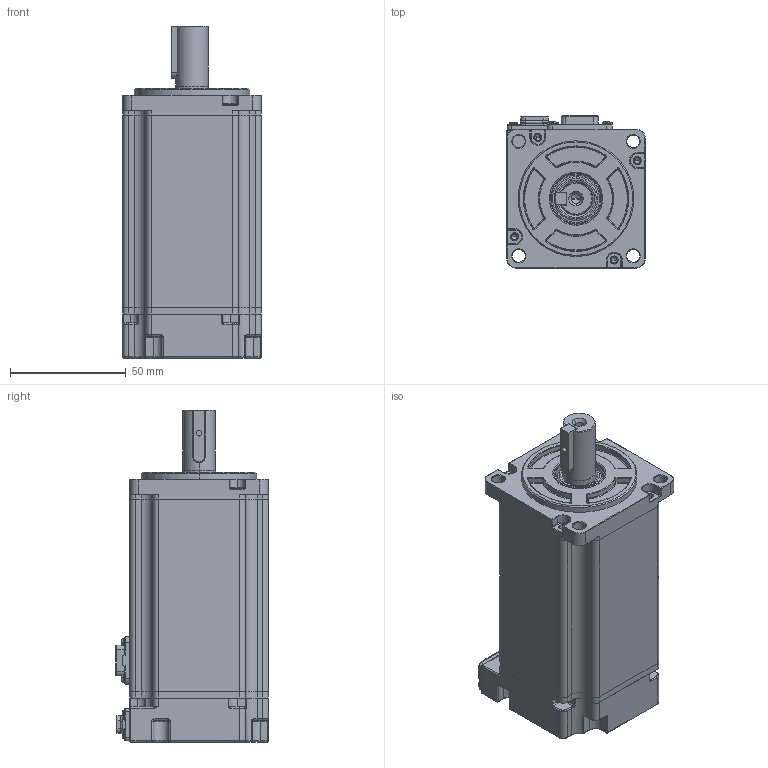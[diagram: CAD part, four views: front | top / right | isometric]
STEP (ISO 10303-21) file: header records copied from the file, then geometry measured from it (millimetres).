
FILE_DESCRIPTION (( 'STEP AP214' ), '1' );
FILE_NAME ('V7E-L06A-R6030-D1.STEP', '2021-08-09T02:48:24', ( '' ), ( '' ), 'SwSTEP 2.0', 'SolidWorks 2014', '' );
FILE_SCHEMA (( 'AUTOMOTIVE_DESIGN' ));
Length unit declared in the file: millimetre
Products named in the file (10): 綴傷裔E06B102HA1; SC40陔晤鎢ん瑤脣釱sc-mc7p-a6-zhichuxianchazuo; 晤鎢ん欶E06B106BA1; 蚐猾 D00B999YF2-TC 15-22-5; 粣芛; V7E-L06A-R6030-D1; 普通型 平键   C 5x5x22.5 带M3起键螺钉孔; 儂褲E06B101AA1-45; ヶ傷裔E06B102QA1; 60-80蚳蚚雄薯脣釱-sc-mc6p-ac-goubanchazuo
Assembly tree (9 placements, depth 2):
  V7E-L06A-R6030-D1
    儂褲E06B101AA1-45
    晤鎢ん欶E06B106BA1
    綴傷裔E06B102HA1
    ヶ傷裔E06B102QA1
    蚐猾 D00B999YF2-TC 15-22-5
    粣芛
    SC40陔晤鎢ん瑤脣釱sc-mc7p-a6-zhichuxianchazuo
    60-80蚳蚚雄薯脣釱-sc-mc6p-ac-goubanchazuo
    普通型 平键   C 5x5x22.5 带M3起键螺钉孔
Bounding box: 60 x 66.1 x 143.5 mm (x, y, z)
Volume: 129332 mm3; surface area: 82257.5 mm2
Topology: 18 solids, 18 shells, 3456 faces, 8750 edges, 5388 vertices
Faces by surface type: plane 1633, cylinder 1185, bspline 286, cone 171, torus 143, sphere 38
Entity records: 127740 total; most frequent: CARTESIAN_POINT 45005, ORIENTED_EDGE 17318, DIRECTION 16495, EDGE_CURVE 8659, AXIS2_PLACEMENT_3D 5572, VERTEX_POINT 5380, VECTOR 5351, LINE 5351
